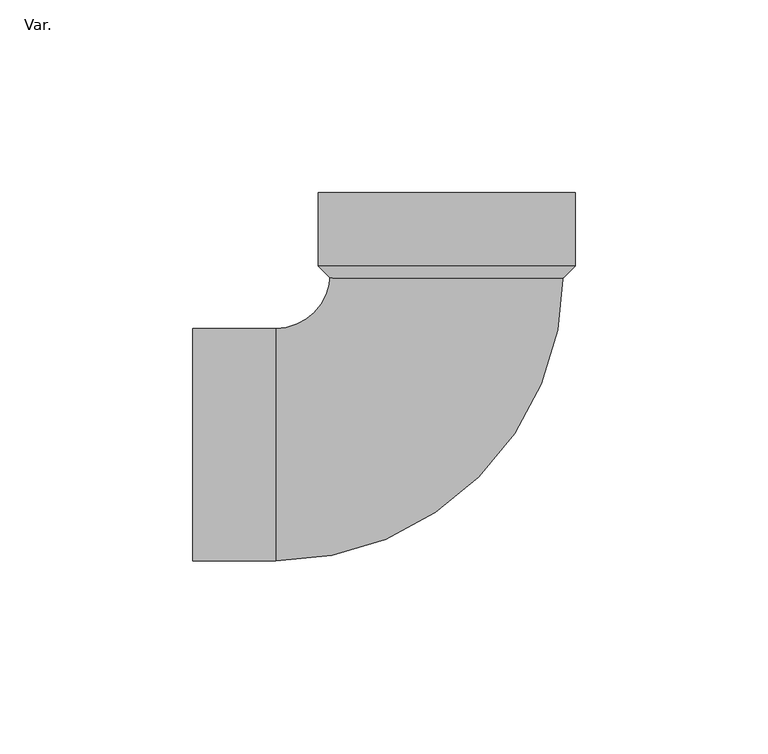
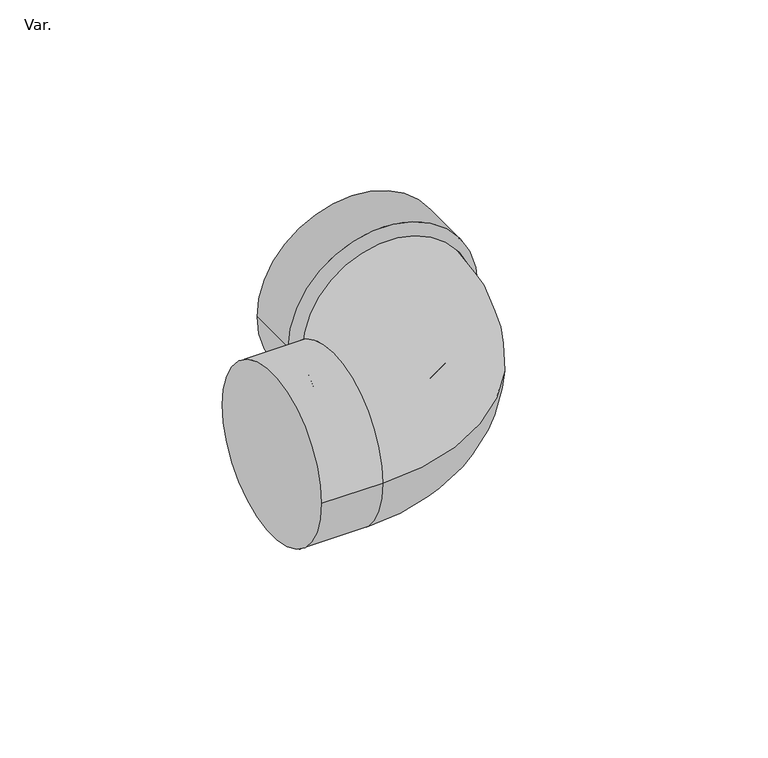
"""IFC4 building model written with IfcOpenShell, lengths in millimetres: pipe fitting geometry, PavcoWavin_UnionesDeTuberia_SanitariaZnoUsarCodo_CxE : Var.."""

from ifc_helpers import new_model, si_unit, point, frame, origin, place, context, project, spatial, polyline, circle_curve, ellipse_curve, trimmed, source, transform, mapped, element, save
from ifc_brep_helpers import plane_surface, cylinder_surface, revolved_surface, advanced_brep


def var_9976362d(model_context):
    return source(origin(), model_context, "Body", "AdvancedBrep", [
        advanced_brep(
        [(-30.165, 43.181, 0.0), (30.165, 43.181, 0.0), (30.165, 65.34, 0.0), (-30.165, 65.34, 0.0), (-33.274, 46.29, 0.0), (33.274, 46.29, 0.0), (-33.274, 65.34, 0.0), (33.274, 65.34, 0.0)],
        [
            (0, 1, circle_curve(frame((0.0, 43.181, 0.0), z_axis=(0.0, -1.0, 0.0), x_axis=(1.0, 0.0, 0.0)), 30.165)),
            (1, 2),
            (2, 3, circle_curve(frame((0.0, 65.34, 0.0), z_axis=(0.0, 1.0, 0.0), x_axis=(1.0, 0.0, 0.0)), 30.165)),
            (3, 0),
            (1, 0, circle_curve(frame((0.0, 43.181, 0.0), z_axis=(0.0, -1.0, 0.0), x_axis=(1.0, 0.0, 0.0)), 30.165)),
            (3, 2, circle_curve(frame((0.0, 65.34, 0.0), z_axis=(0.0, 1.0, 0.0), x_axis=(1.0, 0.0, 0.0)), 30.165)),
            (4, 5, circle_curve(frame((0.0, 46.29, 0.0), z_axis=(0.0, -1.0, 0.0), x_axis=(1.0, 0.0, 0.0)), 33.274)),
            (5, 1),
            (0, 4),
            (5, 4, circle_curve(frame((0.0, 46.29, 0.0), z_axis=(0.0, -1.0, 0.0), x_axis=(1.0, 0.0, 0.0)), 33.274)),
            (6, 7, circle_curve(frame((0.0, 65.34, 0.0), z_axis=(0.0, -1.0, 0.0), x_axis=(1.0, 0.0, 0.0)), 33.274)),
            (7, 5),
            (4, 6),
            (7, 6, circle_curve(frame((0.0, 65.34, 0.0), z_axis=(0.0, -1.0, 0.0), x_axis=(1.0, 0.0, 0.0)), 33.274)),
            (2, 7),
            (6, 3),
        ],
        [
            revolved_surface(polyline([(30.165, 65.33999999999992, 0.0), (30.165, 43.18100000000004, 0.0)]), (0.0, -1952.819, 0.0), (0.0, 1.0, 0.0)),
            revolved_surface(polyline([(30.165, 43.181, 0.0), (33.274, 46.29, 0.0)]), (0.0, -1952.819, 0.0), (0.0, 1.0, 0.0)),
            cylinder_surface(frame((0.0, -1952.819, 0.0), z_axis=(0.0, 1.0, 0.0), x_axis=(1.0, 0.0, 0.0)), 33.274),
            plane_surface(frame((0.0, 65.34, 0.0), z_axis=(0.0, 1.0, 0.0), x_axis=(1.0, 0.0, 0.0))),
        ],
        [
            (0, [[1, 2, 3, 4]]),
            (0, [[5, -4, 6, -2]]),
            (1, [[7, 8, -1, 9]]),
            (1, [[10, -9, -5, -8]]),
            (2, [[11, 12, -7, 13]]),
            (2, [[14, -13, -10, -12]]),
            (3, [[-3, 15, -11, 16]]),
            (3, [[-6, -16, -14, -15]]),
        ],
    ),
        advanced_brep(
        [(-65.79, -30.165, 0.0), (-65.79, 30.165, 0.0), (-44.29, -30.165, 0.0), (-44.29, 30.165, 0.0), (30.165, 44.29, 0.0), (24.4039976, 44.29, 17.7305421), (9.3214976, 44.29, 28.6886198), (-9.3214976, 44.29, 28.6886198), (-24.4039976, 44.29, 17.7305421), (-30.165, 44.29, 0.0), (-24.4039976, 44.29, -17.7305421), (-9.3214976, 44.29, -28.6886198), (9.3214976, 44.29, -28.6886198), (24.4039976, 44.29, -17.7305421), (30.165, 46.29, 0.0), (-30.165, 46.29, 0.0), (0.0, 46.29, 0.0)],
        [
            (0, 1, circle_curve(frame((-65.79, 0.0, 0.0), z_axis=(-1.0, 0.0, 0.0), x_axis=(0.0, 1.0, 0.0)), 30.165)),
            (1, 0, circle_curve(frame((-65.79, 0.0, 0.0), z_axis=(-1.0, 0.0, 0.0), x_axis=(0.0, 1.0, 0.0)), 30.165)),
            (0, 2),
            (2, 3, circle_curve(frame((-44.29, 0.0, 0.0), z_axis=(-1.0, 0.0, 0.0), x_axis=(0.0, 1.0, 0.0)), 30.165)),
            (3, 1),
            (3, 2, circle_curve(frame((-44.29, 0.0, 0.0), z_axis=(-1.0, 0.0, 0.0), x_axis=(0.0, 1.0, 0.0)), 30.165)),
            (2, 4, circle_curve(frame((-44.29, 44.29, 0.0), z_axis=(0.0, 0.0, 1.0), x_axis=(0.0, -1.0, 0.0)), 74.455)),
            (4, 5, circle_curve(frame((0.0, 44.29, 0.0), z_axis=(0.0, -1.0, 0.0), x_axis=(-1.0, 0.0, 0.0)), 30.165)),
            (5, 6, circle_curve(frame((0.0, 44.29, 0.0), z_axis=(0.0, -1.0, 0.0), x_axis=(-1.0, 0.0, 0.0)), 30.165)),
            (6, 7, circle_curve(frame((0.0, 44.29, 0.0), z_axis=(0.0, -1.0, 0.0), x_axis=(-1.0, 0.0, 0.0)), 30.165)),
            (7, 8, circle_curve(frame((0.0, 44.29, 0.0), z_axis=(0.0, -1.0, 0.0), x_axis=(-1.0, 0.0, 0.0)), 30.165)),
            (8, 9, circle_curve(frame((0.0, 44.29, 0.0), z_axis=(0.0, -1.0, 0.0), x_axis=(-1.0, 0.0, 0.0)), 30.165)),
            (9, 3, circle_curve(frame((-44.29, 44.29, 0.0), z_axis=(0.0, 0.0, -1.0), x_axis=(0.0, -1.0, 0.0)), 14.125)),
            (9, 10, circle_curve(frame((0.0, 44.29, 0.0), z_axis=(0.0, -1.0, 0.0), x_axis=(-1.0, 0.0, 0.0)), 30.165)),
            (10, 11, circle_curve(frame((0.0, 44.29, 0.0), z_axis=(0.0, -1.0, 0.0), x_axis=(-1.0, 0.0, 0.0)), 30.165)),
            (11, 12, circle_curve(frame((0.0, 44.29, 0.0), z_axis=(0.0, -1.0, 0.0), x_axis=(-1.0, 0.0, 0.0)), 30.165)),
            (12, 13, circle_curve(frame((0.0, 44.29, 0.0), z_axis=(0.0, -1.0, 0.0), x_axis=(-1.0, 0.0, 0.0)), 30.165)),
            (13, 4, circle_curve(frame((0.0, 44.29, 0.0), z_axis=(0.0, -1.0, 0.0), x_axis=(-1.0, 0.0, 0.0)), 30.165)),
            (14, 15, circle_curve(frame((0.0, 46.29, 0.0), z_axis=(0.0, 1.0, 0.0), x_axis=(-1.0, 0.0, 0.0)), 30.165)),
            (15, 16),
            (16, 14),
            (15, 14, circle_curve(frame((0.0, 46.29, 0.0), z_axis=(0.0, 1.0, 0.0), x_axis=(-1.0, 0.0, 0.0)), 30.165)),
            (14, 4),
            (9, 15),
        ],
        [
            plane_surface(frame((-65.79, 0.0, 0.0), z_axis=(-1.0, 0.0, 0.0), x_axis=(0.0, 0.0, 1.0))),
            cylinder_surface(frame((-65.79, 0.0, 0.0), z_axis=(-1.0, 0.0, 0.0), x_axis=(0.0, 1.0, 0.0)), 30.165),
            revolved_surface(trimmed(ellipse_curve(frame((-44.29, 0.0, 0.0), z_axis=(-1.0, 0.0, 0.0), x_axis=(0.0, 1.0, 0.0)), 30.165, 30.165), [point((-44.29, -30.165, 0.0))], [point((-44.29, 30.165, 0.0))], True, "CARTESIAN"), (-44.29, 44.29, 0.0), (0.0, 0.0, 1.0)),
            revolved_surface(trimmed(ellipse_curve(frame((-44.29, 0.0, 0.0), z_axis=(-1.0, 0.0, 0.0), x_axis=(0.0, 1.0, 0.0)), 30.165, 30.165), [point((-44.29, 30.165, 0.0))], [point((-44.29, -30.165, 0.0))], True, "CARTESIAN"), (-44.29, 44.29, 0.0), (0.0, 0.0, 1.0)),
            plane_surface(frame((0.0, 46.29, 0.0), z_axis=(0.0, 1.0, 0.0), x_axis=(-1.0, 0.0, 0.0))),
            cylinder_surface(frame((0.0, 0.0, 0.0), z_axis=(0.0, -1.0, 0.0), x_axis=(-1.0, 0.0, 0.0)), 30.165),
        ],
        [
            (0, [[1, 2]]),
            (1, [[-1, 3, 4, 5]]),
            (1, [[-2, -5, 6, -3]]),
            (2, [[-4, 7, 8, 9, 10, 11, 12, 13]]),
            (3, [[-6, -13, 14, 15, 16, 17, 18, -7]]),
            (4, [[19, 20, 21]]),
            (4, [[-20, 22, -21]]),
            (5, [[-19, 23, -18, -17, -16, -15, -14, 24]]),
            (5, [[-22, -24, -12, -11, -10, -9, -8, -23]]),
        ],
    ),
    ])


if __name__ == "__main__":
    model = new_model("IFC4")
    model_context = context("Model", 3, world=origin())
    ifc_project = project(units=[si_unit("LENGTHUNIT", "METRE", prefix="MILLI")], contexts=[model_context])
    site = spatial("IfcSite", under=ifc_project)
    building = spatial("IfcBuilding", under=site)
    placement = place(None, origin())
    var_shape = var_9976362d(model_context)
    element("IfcPipeFitting", 1, ObjectType="PavcoWavin_UnionesDeTuberia_SanitariaZnoUsarCodo_CxE : Var.", at=placement, inside=building, context=model_context, shape_type="MappedRepresentation", body=[
        mapped(var_shape, transform((0.0, 0.0, 0.0), x_axis=(1.0, 0.0, 0.0), y_axis=(0.0, 1.0, 0.0), z_axis=(0.0, 0.0, 1.0))),
    ])
    save(model, "model.ifc")
